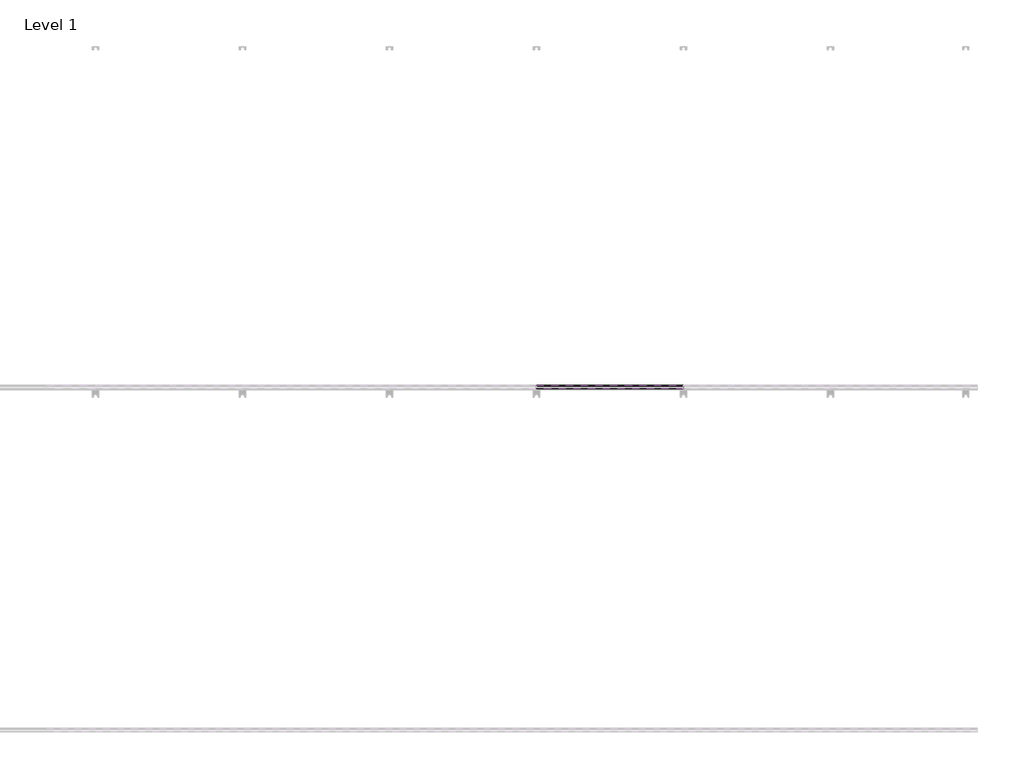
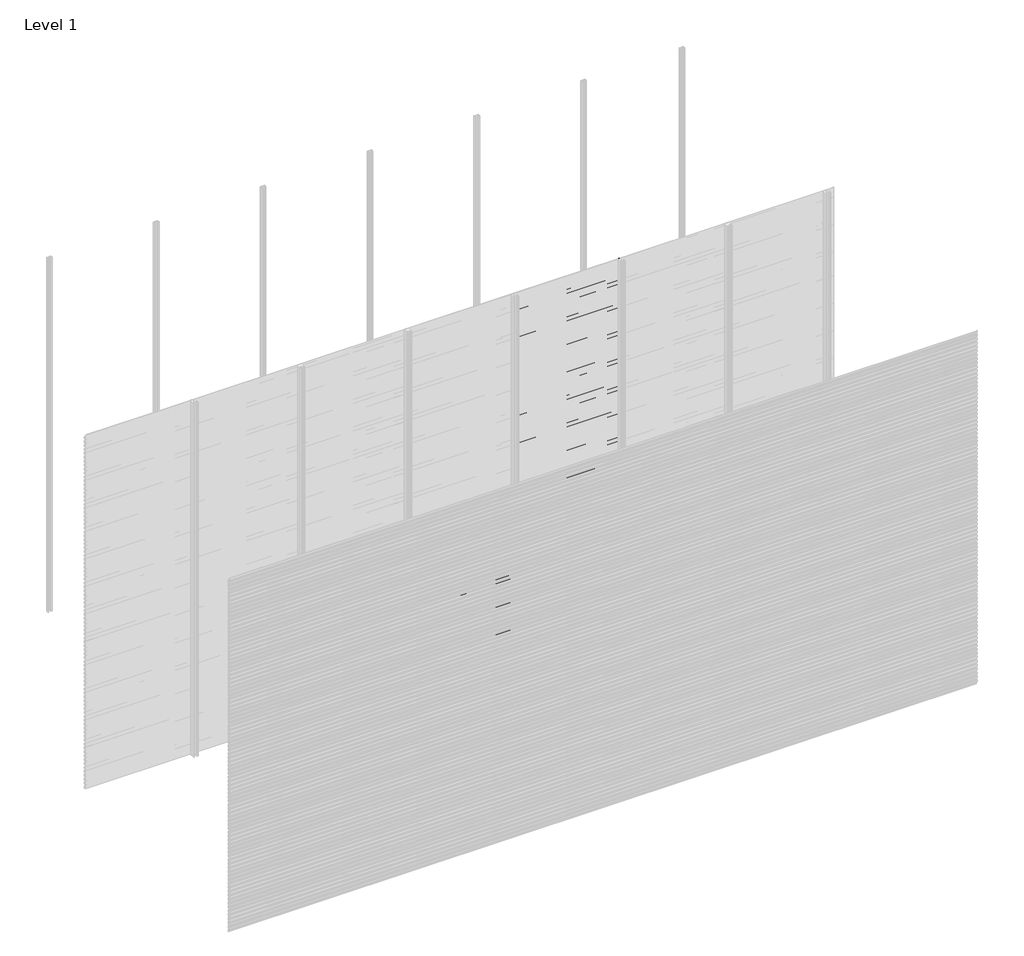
# One storey, part 75 of 96: 76 proxies.
"""IFC4 building model written with IfcOpenShell, lengths in millimetres."""

from ifc_helpers import new_model, si_unit, frame, origin, place, context, project, spatial, polyline, outline, extrude, element, save

model = new_model("IFC4")

# Units and contexts
model_context = context("Model", 3, world=origin())
ifc_project = project(units=[si_unit("LENGTHUNIT", "METRE", prefix="MILLI")], contexts=[model_context])

# Site, building, storey
site = spatial("IfcSite", under=ifc_project)
building = spatial("IfcBuilding", under=site)
storey = spatial("IfcBuildingStorey", under=building, Name="Level 1", Elevation=0.0)

# Proxies
placement = place(None, origin())
element("IfcBuildingElementProxy", 1, Name="Wall Sweeps", at=placement, inside=storey, context=model_context, shape_type="SweptSolid", body=[
    extrude(outline(polyline([(-11977.6, 640.7655033), (-11977.6, 626.4779188), (-11982.4114965, 623.7), (-11982.4114965, 624.9701706), (-11978.85, 627.0264016), (-11978.85, 640.0437382), (-11998.0, 651.1000799), (-11998.0, 666.0), (-11996.75, 666.0), (-11996.75, 651.8217609), (-11977.6, 640.7655033)])), frame((2571.4285714, 0.0, 0.0), z_axis=(1.0, 0.0, 0.0), x_axis=(0.0, 1.0, 0.0)), (0.0, 0.0, 1.0), 857.1428571),
])
element("IfcBuildingElementProxy", 2, Name="Wall Sweeps", at=placement, inside=storey, context=model_context, shape_type="SweptSolid", body=[
    extrude(outline(polyline([(-11977.6, 607.4655033), (-11977.6, 593.1779188), (-11982.4114965, 590.4), (-11982.4114965, 591.6701706), (-11978.85, 593.7264016), (-11978.85, 606.7437382), (-11998.0, 617.8000799), (-11998.0, 632.7), (-11996.75, 632.7), (-11996.75, 618.5217609), (-11977.6, 607.4655033)])), frame((2571.4285714, 0.0, 0.0), z_axis=(1.0, 0.0, 0.0), x_axis=(0.0, 1.0, 0.0)), (0.0, 0.0, 1.0), 857.1428571),
])
element("IfcBuildingElementProxy", 3, Name="Wall Sweeps", at=placement, inside=storey, context=model_context, shape_type="SweptSolid", body=[
    extrude(outline(polyline([(-11977.6, 574.1655033), (-11977.6, 559.8779188), (-11982.4114965, 557.1), (-11982.4114965, 558.3701706), (-11978.85, 560.4264016), (-11978.85, 573.4437382), (-11998.0, 584.5000799), (-11998.0, 599.4), (-11996.75, 599.4), (-11996.75, 585.2217609), (-11977.6, 574.1655033)])), frame((2571.4285714, 0.0, 0.0), z_axis=(1.0, 0.0, 0.0), x_axis=(0.0, 1.0, 0.0)), (0.0, 0.0, 1.0), 857.1428571),
])
element("IfcBuildingElementProxy", 4, Name="Wall Sweeps", at=placement, inside=storey, context=model_context, shape_type="SweptSolid", body=[
    extrude(outline(polyline([(-11977.6, 540.8655033), (-11977.6, 526.5779188), (-11982.4114965, 523.8), (-11982.4114965, 525.0701706), (-11978.85, 527.1264016), (-11978.85, 540.1437382), (-11998.0, 551.2000799), (-11998.0, 566.1), (-11996.75, 566.1), (-11996.75, 551.9217609), (-11977.6, 540.8655033)])), frame((2571.4285714, 0.0, 0.0), z_axis=(1.0, 0.0, 0.0), x_axis=(0.0, 1.0, 0.0)), (0.0, 0.0, 1.0), 857.1428571),
])
element("IfcBuildingElementProxy", 5, Name="Wall Sweeps", at=placement, inside=storey, context=model_context, shape_type="SweptSolid", body=[
    extrude(outline(polyline([(-11977.6, 507.5655033), (-11977.6, 493.2779188), (-11982.4114965, 490.5), (-11982.4114965, 491.7701706), (-11978.85, 493.8264016), (-11978.85, 506.8437382), (-11998.0, 517.9000799), (-11998.0, 532.8), (-11996.75, 532.8), (-11996.75, 518.6217609), (-11977.6, 507.5655033)])), frame((2571.4285714, 0.0, 0.0), z_axis=(1.0, 0.0, 0.0), x_axis=(0.0, 1.0, 0.0)), (0.0, 0.0, 1.0), 857.1428571),
])
element("IfcBuildingElementProxy", 6, Name="Wall Sweeps", at=placement, inside=storey, context=model_context, shape_type="SweptSolid", body=[
    extrude(outline(polyline([(-11977.6, 474.2655033), (-11977.6, 459.9779188), (-11982.4114965, 457.2), (-11982.4114965, 458.4701706), (-11978.85, 460.5264016), (-11978.85, 473.5437382), (-11998.0, 484.6000799), (-11998.0, 499.5), (-11996.75, 499.5), (-11996.75, 485.3217609), (-11977.6, 474.2655033)])), frame((2571.4285714, 0.0, 0.0), z_axis=(1.0, 0.0, 0.0), x_axis=(0.0, 1.0, 0.0)), (0.0, 0.0, 1.0), 857.1428571),
])
element("IfcBuildingElementProxy", 7, Name="Wall Sweeps", at=placement, inside=storey, context=model_context, shape_type="SweptSolid", body=[
    extrude(outline(polyline([(-11977.6, 440.9655033), (-11977.6, 426.6779188), (-11982.4114965, 423.9), (-11982.4114965, 425.1701706), (-11978.85, 427.2264016), (-11978.85, 440.2437382), (-11998.0, 451.3000799), (-11998.0, 466.2), (-11996.75, 466.2), (-11996.75, 452.0217609), (-11977.6, 440.9655033)])), frame((2571.4285714, 0.0, 0.0), z_axis=(1.0, 0.0, 0.0), x_axis=(0.0, 1.0, 0.0)), (0.0, 0.0, 1.0), 857.1428571),
])
element("IfcBuildingElementProxy", 8, Name="Wall Sweeps", at=placement, inside=storey, context=model_context, shape_type="SweptSolid", body=[
    extrude(outline(polyline([(-11977.6, 407.6655033), (-11977.6, 393.3779188), (-11982.4114965, 390.6), (-11982.4114965, 391.8701706), (-11978.85, 393.9264016), (-11978.85, 406.9437382), (-11998.0, 418.0000799), (-11998.0, 432.9), (-11996.75, 432.9), (-11996.75, 418.7217609), (-11977.6, 407.6655033)])), frame((2571.4285714, 0.0, 0.0), z_axis=(1.0, 0.0, 0.0), x_axis=(0.0, 1.0, 0.0)), (0.0, 0.0, 1.0), 857.1428571),
])
element("IfcBuildingElementProxy", 9, Name="Wall Sweeps", at=placement, inside=storey, context=model_context, shape_type="SweptSolid", body=[
    extrude(outline(polyline([(-11977.6, 374.3655033), (-11977.6, 360.0779188), (-11982.4114965, 357.3), (-11982.4114965, 358.5701706), (-11978.85, 360.6264016), (-11978.85, 373.6437382), (-11998.0, 384.7000799), (-11998.0, 399.6), (-11996.75, 399.6), (-11996.75, 385.4217609), (-11977.6, 374.3655033)])), frame((2571.4285714, 0.0, 0.0), z_axis=(1.0, 0.0, 0.0), x_axis=(0.0, 1.0, 0.0)), (0.0, 0.0, 1.0), 857.1428571),
])
element("IfcBuildingElementProxy", 10, Name="Wall Sweeps", at=placement, inside=storey, context=model_context, shape_type="SweptSolid", body=[
    extrude(outline(polyline([(-11977.6, 341.0655033), (-11977.6, 326.7779188), (-11982.4114965, 324.0), (-11982.4114965, 325.2701706), (-11978.85, 327.3264016), (-11978.85, 340.3437382), (-11998.0, 351.4000799), (-11998.0, 366.3), (-11996.75, 366.3), (-11996.75, 352.1217609), (-11977.6, 341.0655033)])), frame((2571.4285714, 0.0, 0.0), z_axis=(1.0, 0.0, 0.0), x_axis=(0.0, 1.0, 0.0)), (0.0, 0.0, 1.0), 857.1428571),
])
element("IfcBuildingElementProxy", 11, Name="Wall Sweeps", at=placement, inside=storey, context=model_context, shape_type="SweptSolid", body=[
    extrude(outline(polyline([(-11977.6, 307.7655033), (-11977.6, 293.4779188), (-11982.4114965, 290.7), (-11982.4114965, 291.9701706), (-11978.85, 294.0264016), (-11978.85, 307.0437382), (-11998.0, 318.1000799), (-11998.0, 333.0), (-11996.75, 333.0), (-11996.75, 318.8217609), (-11977.6, 307.7655033)])), frame((2571.4285714, 0.0, 0.0), z_axis=(1.0, 0.0, 0.0), x_axis=(0.0, 1.0, 0.0)), (0.0, 0.0, 1.0), 857.1428571),
])
element("IfcBuildingElementProxy", 12, Name="Wall Sweeps", at=placement, inside=storey, context=model_context, shape_type="SweptSolid", body=[
    extrude(outline(polyline([(-11977.6, 274.4655033), (-11977.6, 260.1779188), (-11982.4114965, 257.4), (-11982.4114965, 258.6701706), (-11978.85, 260.7264016), (-11978.85, 273.7437382), (-11998.0, 284.8000799), (-11998.0, 299.7), (-11996.75, 299.7), (-11996.75, 285.5217609), (-11977.6, 274.4655033)])), frame((2571.4285714, 0.0, 0.0), z_axis=(1.0, 0.0, 0.0), x_axis=(0.0, 1.0, 0.0)), (0.0, 0.0, 1.0), 857.1428571),
])
element("IfcBuildingElementProxy", 13, Name="Wall Sweeps", at=placement, inside=storey, context=model_context, shape_type="SweptSolid", body=[
    extrude(outline(polyline([(-11977.6, 241.1655033), (-11977.6, 226.8779188), (-11982.4114965, 224.1), (-11982.4114965, 225.3701706), (-11978.85, 227.4264016), (-11978.85, 240.4437382), (-11998.0, 251.5000799), (-11998.0, 266.4), (-11996.75, 266.4), (-11996.75, 252.2217609), (-11977.6, 241.1655033)])), frame((2571.4285714, 0.0, 0.0), z_axis=(1.0, 0.0, 0.0), x_axis=(0.0, 1.0, 0.0)), (0.0, 0.0, 1.0), 857.1428571),
])
element("IfcBuildingElementProxy", 14, Name="Wall Sweeps", at=placement, inside=storey, context=model_context, shape_type="SweptSolid", body=[
    extrude(outline(polyline([(-11977.6, 207.8655033), (-11977.6, 193.5779188), (-11982.4114965, 190.8), (-11982.4114965, 192.0701706), (-11978.85, 194.1264016), (-11978.85, 207.1437382), (-11998.0, 218.2000799), (-11998.0, 233.1), (-11996.75, 233.1), (-11996.75, 218.9217609), (-11977.6, 207.8655033)])), frame((2571.4285714, 0.0, 0.0), z_axis=(1.0, 0.0, 0.0), x_axis=(0.0, 1.0, 0.0)), (0.0, 0.0, 1.0), 857.1428571),
])
element("IfcBuildingElementProxy", 15, Name="Wall Sweeps", at=placement, inside=storey, context=model_context, shape_type="SweptSolid", body=[
    extrude(outline(polyline([(-11977.6, 174.5655033), (-11977.6, 160.2779188), (-11982.4114965, 157.5), (-11982.4114965, 158.7701706), (-11978.85, 160.8264016), (-11978.85, 173.8437382), (-11998.0, 184.9000799), (-11998.0, 199.8), (-11996.75, 199.8), (-11996.75, 185.6217609), (-11977.6, 174.5655033)])), frame((2571.4285714, 0.0, 0.0), z_axis=(1.0, 0.0, 0.0), x_axis=(0.0, 1.0, 0.0)), (0.0, 0.0, 1.0), 857.1428571),
])
element("IfcBuildingElementProxy", 16, Name="Wall Sweeps", at=placement, inside=storey, context=model_context, shape_type="SweptSolid", body=[
    extrude(outline(polyline([(-11977.6, 141.2655033), (-11977.6, 126.9779188), (-11982.4114965, 124.2), (-11982.4114965, 125.4701706), (-11978.85, 127.5264016), (-11978.85, 140.5437382), (-11998.0, 151.6000799), (-11998.0, 166.5), (-11996.75, 166.5), (-11996.75, 152.3217609), (-11977.6, 141.2655033)])), frame((2571.4285714, 0.0, 0.0), z_axis=(1.0, 0.0, 0.0), x_axis=(0.0, 1.0, 0.0)), (0.0, 0.0, 1.0), 857.1428571),
])
element("IfcBuildingElementProxy", 17, Name="Wall Sweeps", at=placement, inside=storey, context=model_context, shape_type="SweptSolid", body=[
    extrude(outline(polyline([(-11977.6, 107.9655033), (-11977.6, 93.6779188), (-11982.4114965, 90.9), (-11982.4114965, 92.1701706), (-11978.85, 94.2264016), (-11978.85, 107.2437382), (-11998.0, 118.3000799), (-11998.0, 133.2), (-11996.75, 133.2), (-11996.75, 119.0217609), (-11977.6, 107.9655033)])), frame((2571.4285714, 0.0, 0.0), z_axis=(1.0, 0.0, 0.0), x_axis=(0.0, 1.0, 0.0)), (0.0, 0.0, 1.0), 857.1428571),
])
element("IfcBuildingElementProxy", 18, Name="Wall Sweeps", at=placement, inside=storey, context=model_context, shape_type="SweptSolid", body=[
    extrude(outline(polyline([(-11977.6, 74.6655033), (-11977.6, 60.3779188), (-11982.4114965, 57.6), (-11982.4114965, 58.8701706), (-11978.85, 60.9264016), (-11978.85, 73.9437382), (-11998.0, 85.0000799), (-11998.0, 99.9), (-11996.75, 99.9), (-11996.75, 85.7217609), (-11977.6, 74.6655033)])), frame((2571.4285714, 0.0, 0.0), z_axis=(1.0, 0.0, 0.0), x_axis=(0.0, 1.0, 0.0)), (0.0, 0.0, 1.0), 857.1428571),
])
element("IfcBuildingElementProxy", 19, Name="Wall Sweeps", at=placement, inside=storey, context=model_context, shape_type="SweptSolid", body=[
    extrude(outline(polyline([(-11977.6, 41.3655033), (-11977.6, 27.0779188), (-11982.4114965, 24.3), (-11982.4114965, 25.5701706), (-11978.85, 27.6264016), (-11978.85, 40.6437382), (-11998.0, 51.7000799), (-11998.0, 66.6), (-11996.75, 66.6), (-11996.75, 52.4217609), (-11977.6, 41.3655033)])), frame((2571.4285714, 0.0, 0.0), z_axis=(1.0, 0.0, 0.0), x_axis=(0.0, 1.0, 0.0)), (0.0, 0.0, 1.0), 857.1428571),
])
element("IfcBuildingElementProxy", 20, Name="Wall Sweeps", at=placement, inside=storey, context=model_context, shape_type="SweptSolid", body=[
    extrude(outline(polyline([(-11977.6, 8.0655033), (-11977.6, -6.2220812), (-11982.4114965, -9.0), (-11982.4114965, -7.7298294), (-11978.85, -5.6735984), (-11978.85, 7.3437382), (-11998.0, 18.4000799), (-11998.0, 33.3), (-11996.75, 33.3), (-11996.75, 19.1217609), (-11977.6, 8.0655033)])), frame((2571.4285714, 0.0, 0.0), z_axis=(1.0, 0.0, 0.0), x_axis=(0.0, 1.0, 0.0)), (0.0, 0.0, 1.0), 857.1428571),
])
element("IfcBuildingElementProxy", 21, Name="Wall Sweeps", at=placement, inside=storey, context=model_context, shape_type="SweptSolid", body=[
    extrude(outline(polyline([(-11977.6, 2971.7655033), (-11977.6, 2957.4779188), (-11982.4114965, 2954.7), (-11982.4114965, 2955.9701706), (-11978.85, 2958.0264016), (-11978.85, 2971.0437382), (-11998.0, 2982.1000799), (-11998.0, 2997.0), (-11996.75, 2997.0), (-11996.75, 2982.8217609), (-11977.6, 2971.7655033)])), frame((3428.5714286, 0.0, 0.0), z_axis=(1.0, 0.0, 0.0), x_axis=(0.0, 1.0, 0.0)), (0.0, 0.0, 1.0), 857.1428571),
])
element("IfcBuildingElementProxy", 22, Name="Wall Sweeps", at=placement, inside=storey, context=model_context, shape_type="SweptSolid", body=[
    extrude(outline(polyline([(-11977.6, 2938.4655033), (-11977.6, 2924.1779188), (-11982.4114965, 2921.4), (-11982.4114965, 2922.6701706), (-11978.85, 2924.7264016), (-11978.85, 2937.7437382), (-11998.0, 2948.8000799), (-11998.0, 2963.7), (-11996.75, 2963.7), (-11996.75, 2949.5217609), (-11977.6, 2938.4655033)])), frame((3428.5714286, 0.0, 0.0), z_axis=(1.0, 0.0, 0.0), x_axis=(0.0, 1.0, 0.0)), (0.0, 0.0, 1.0), 857.1428571),
])
element("IfcBuildingElementProxy", 23, Name="Wall Sweeps", at=placement, inside=storey, context=model_context, shape_type="SweptSolid", body=[
    extrude(outline(polyline([(-11977.6, 2905.1655033), (-11977.6, 2890.8779188), (-11982.4114965, 2888.1), (-11982.4114965, 2889.3701706), (-11978.85, 2891.4264016), (-11978.85, 2904.4437382), (-11998.0, 2915.5000799), (-11998.0, 2930.4), (-11996.75, 2930.4), (-11996.75, 2916.2217609), (-11977.6, 2905.1655033)])), frame((3428.5714286, 0.0, 0.0), z_axis=(1.0, 0.0, 0.0), x_axis=(0.0, 1.0, 0.0)), (0.0, 0.0, 1.0), 857.1428571),
])
element("IfcBuildingElementProxy", 24, Name="Wall Sweeps", at=placement, inside=storey, context=model_context, shape_type="SweptSolid", body=[
    extrude(outline(polyline([(-11977.6, 2871.8655033), (-11977.6, 2857.5779188), (-11982.4114965, 2854.8), (-11982.4114965, 2856.0701706), (-11978.85, 2858.1264016), (-11978.85, 2871.1437382), (-11998.0, 2882.2000799), (-11998.0, 2897.1), (-11996.75, 2897.1), (-11996.75, 2882.9217609), (-11977.6, 2871.8655033)])), frame((3428.5714286, 0.0, 0.0), z_axis=(1.0, 0.0, 0.0), x_axis=(0.0, 1.0, 0.0)), (0.0, 0.0, 1.0), 857.1428571),
])
element("IfcBuildingElementProxy", 25, Name="Wall Sweeps", at=placement, inside=storey, context=model_context, shape_type="SweptSolid", body=[
    extrude(outline(polyline([(-11977.6, 2838.5655033), (-11977.6, 2824.2779188), (-11982.4114965, 2821.5), (-11982.4114965, 2822.7701706), (-11978.85, 2824.8264016), (-11978.85, 2837.8437382), (-11998.0, 2848.9000799), (-11998.0, 2863.8), (-11996.75, 2863.8), (-11996.75, 2849.6217609), (-11977.6, 2838.5655033)])), frame((3428.5714286, 0.0, 0.0), z_axis=(1.0, 0.0, 0.0), x_axis=(0.0, 1.0, 0.0)), (0.0, 0.0, 1.0), 857.1428571),
])
element("IfcBuildingElementProxy", 26, Name="Wall Sweeps", at=placement, inside=storey, context=model_context, shape_type="SweptSolid", body=[
    extrude(outline(polyline([(-11977.6, 2805.2655033), (-11977.6, 2790.9779188), (-11982.4114965, 2788.2), (-11982.4114965, 2789.4701706), (-11978.85, 2791.5264016), (-11978.85, 2804.5437382), (-11998.0, 2815.6000799), (-11998.0, 2830.5), (-11996.75, 2830.5), (-11996.75, 2816.3217609), (-11977.6, 2805.2655033)])), frame((3428.5714286, 0.0, 0.0), z_axis=(1.0, 0.0, 0.0), x_axis=(0.0, 1.0, 0.0)), (0.0, 0.0, 1.0), 857.1428571),
])
element("IfcBuildingElementProxy", 27, Name="Wall Sweeps", at=placement, inside=storey, context=model_context, shape_type="SweptSolid", body=[
    extrude(outline(polyline([(-11977.6, 2771.9655033), (-11977.6, 2757.6779188), (-11982.4114965, 2754.9), (-11982.4114965, 2756.1701706), (-11978.85, 2758.2264016), (-11978.85, 2771.2437382), (-11998.0, 2782.3000799), (-11998.0, 2797.2), (-11996.75, 2797.2), (-11996.75, 2783.0217609), (-11977.6, 2771.9655033)])), frame((3428.5714286, 0.0, 0.0), z_axis=(1.0, 0.0, 0.0), x_axis=(0.0, 1.0, 0.0)), (0.0, 0.0, 1.0), 857.1428571),
])
element("IfcBuildingElementProxy", 28, Name="Wall Sweeps", at=placement, inside=storey, context=model_context, shape_type="SweptSolid", body=[
    extrude(outline(polyline([(-11977.6, 2738.6655033), (-11977.6, 2724.3779188), (-11982.4114965, 2721.6), (-11982.4114965, 2722.8701706), (-11978.85, 2724.9264016), (-11978.85, 2737.9437382), (-11998.0, 2749.0000799), (-11998.0, 2763.9), (-11996.75, 2763.9), (-11996.75, 2749.7217609), (-11977.6, 2738.6655033)])), frame((3428.5714286, 0.0, 0.0), z_axis=(1.0, 0.0, 0.0), x_axis=(0.0, 1.0, 0.0)), (0.0, 0.0, 1.0), 857.1428571),
])
element("IfcBuildingElementProxy", 29, Name="Wall Sweeps", at=placement, inside=storey, context=model_context, shape_type="SweptSolid", body=[
    extrude(outline(polyline([(-11977.6, 2705.3655033), (-11977.6, 2691.0779188), (-11982.4114965, 2688.3), (-11982.4114965, 2689.5701706), (-11978.85, 2691.6264016), (-11978.85, 2704.6437382), (-11998.0, 2715.7000799), (-11998.0, 2730.6), (-11996.75, 2730.6), (-11996.75, 2716.4217609), (-11977.6, 2705.3655033)])), frame((3428.5714286, 0.0, 0.0), z_axis=(1.0, 0.0, 0.0), x_axis=(0.0, 1.0, 0.0)), (0.0, 0.0, 1.0), 857.1428571),
])
element("IfcBuildingElementProxy", 30, Name="Wall Sweeps", at=placement, inside=storey, context=model_context, shape_type="SweptSolid", body=[
    extrude(outline(polyline([(-11977.6, 2672.0655033), (-11977.6, 2657.7779188), (-11982.4114965, 2655.0), (-11982.4114965, 2656.2701706), (-11978.85, 2658.3264016), (-11978.85, 2671.3437382), (-11998.0, 2682.4000799), (-11998.0, 2697.3), (-11996.75, 2697.3), (-11996.75, 2683.1217609), (-11977.6, 2672.0655033)])), frame((3428.5714286, 0.0, 0.0), z_axis=(1.0, 0.0, 0.0), x_axis=(0.0, 1.0, 0.0)), (0.0, 0.0, 1.0), 857.1428571),
])
element("IfcBuildingElementProxy", 31, Name="Wall Sweeps", at=placement, inside=storey, context=model_context, shape_type="SweptSolid", body=[
    extrude(outline(polyline([(-11977.6, 2638.7655033), (-11977.6, 2624.4779188), (-11982.4114965, 2621.7), (-11982.4114965, 2622.9701706), (-11978.85, 2625.0264016), (-11978.85, 2638.0437382), (-11998.0, 2649.1000799), (-11998.0, 2664.0), (-11996.75, 2664.0), (-11996.75, 2649.8217609), (-11977.6, 2638.7655033)])), frame((3428.5714286, 0.0, 0.0), z_axis=(1.0, 0.0, 0.0), x_axis=(0.0, 1.0, 0.0)), (0.0, 0.0, 1.0), 857.1428571),
])
element("IfcBuildingElementProxy", 32, Name="Wall Sweeps", at=placement, inside=storey, context=model_context, shape_type="SweptSolid", body=[
    extrude(outline(polyline([(-11977.6, 2605.4655033), (-11977.6, 2591.1779188), (-11982.4114965, 2588.4), (-11982.4114965, 2589.6701706), (-11978.85, 2591.7264016), (-11978.85, 2604.7437382), (-11998.0, 2615.8000799), (-11998.0, 2630.7), (-11996.75, 2630.7), (-11996.75, 2616.5217609), (-11977.6, 2605.4655033)])), frame((3428.5714286, 0.0, 0.0), z_axis=(1.0, 0.0, 0.0), x_axis=(0.0, 1.0, 0.0)), (0.0, 0.0, 1.0), 857.1428571),
])
element("IfcBuildingElementProxy", 33, Name="Wall Sweeps", at=placement, inside=storey, context=model_context, shape_type="SweptSolid", body=[
    extrude(outline(polyline([(-11977.6, 2572.1655033), (-11977.6, 2557.8779188), (-11982.4114965, 2555.1), (-11982.4114965, 2556.3701706), (-11978.85, 2558.4264016), (-11978.85, 2571.4437382), (-11998.0, 2582.5000799), (-11998.0, 2597.4), (-11996.75, 2597.4), (-11996.75, 2583.2217609), (-11977.6, 2572.1655033)])), frame((3428.5714286, 0.0, 0.0), z_axis=(1.0, 0.0, 0.0), x_axis=(0.0, 1.0, 0.0)), (0.0, 0.0, 1.0), 857.1428571),
])
element("IfcBuildingElementProxy", 34, Name="Wall Sweeps", at=placement, inside=storey, context=model_context, shape_type="SweptSolid", body=[
    extrude(outline(polyline([(-11977.6, 2538.8655033), (-11977.6, 2524.5779188), (-11982.4114965, 2521.8), (-11982.4114965, 2523.0701706), (-11978.85, 2525.1264016), (-11978.85, 2538.1437382), (-11998.0, 2549.2000799), (-11998.0, 2564.1), (-11996.75, 2564.1), (-11996.75, 2549.9217609), (-11977.6, 2538.8655033)])), frame((3428.5714286, 0.0, 0.0), z_axis=(1.0, 0.0, 0.0), x_axis=(0.0, 1.0, 0.0)), (0.0, 0.0, 1.0), 857.1428571),
])
element("IfcBuildingElementProxy", 35, Name="Wall Sweeps", at=placement, inside=storey, context=model_context, shape_type="SweptSolid", body=[
    extrude(outline(polyline([(-11977.6, 2505.5655033), (-11977.6, 2491.2779188), (-11982.4114965, 2488.5), (-11982.4114965, 2489.7701706), (-11978.85, 2491.8264016), (-11978.85, 2504.8437382), (-11998.0, 2515.9000799), (-11998.0, 2530.8), (-11996.75, 2530.8), (-11996.75, 2516.6217609), (-11977.6, 2505.5655033)])), frame((3428.5714286, 0.0, 0.0), z_axis=(1.0, 0.0, 0.0), x_axis=(0.0, 1.0, 0.0)), (0.0, 0.0, 1.0), 857.1428571),
])
element("IfcBuildingElementProxy", 36, Name="Wall Sweeps", at=placement, inside=storey, context=model_context, shape_type="SweptSolid", body=[
    extrude(outline(polyline([(-11977.6, 2472.2655033), (-11977.6, 2457.9779188), (-11982.4114965, 2455.2), (-11982.4114965, 2456.4701706), (-11978.85, 2458.5264016), (-11978.85, 2471.5437382), (-11998.0, 2482.6000799), (-11998.0, 2497.5), (-11996.75, 2497.5), (-11996.75, 2483.3217609), (-11977.6, 2472.2655033)])), frame((3428.5714286, 0.0, 0.0), z_axis=(1.0, 0.0, 0.0), x_axis=(0.0, 1.0, 0.0)), (0.0, 0.0, 1.0), 857.1428571),
])
element("IfcBuildingElementProxy", 37, Name="Wall Sweeps", at=placement, inside=storey, context=model_context, shape_type="SweptSolid", body=[
    extrude(outline(polyline([(-11977.6, 2438.9655033), (-11977.6, 2424.6779188), (-11982.4114965, 2421.9), (-11982.4114965, 2423.1701706), (-11978.85, 2425.2264016), (-11978.85, 2438.2437382), (-11998.0, 2449.3000799), (-11998.0, 2464.2), (-11996.75, 2464.2), (-11996.75, 2450.0217609), (-11977.6, 2438.9655033)])), frame((3428.5714286, 0.0, 0.0), z_axis=(1.0, 0.0, 0.0), x_axis=(0.0, 1.0, 0.0)), (0.0, 0.0, 1.0), 857.1428571),
])
element("IfcBuildingElementProxy", 38, Name="Wall Sweeps", at=placement, inside=storey, context=model_context, shape_type="SweptSolid", body=[
    extrude(outline(polyline([(-11977.6, 2405.6655033), (-11977.6, 2391.3779188), (-11982.4114965, 2388.6), (-11982.4114965, 2389.8701706), (-11978.85, 2391.9264016), (-11978.85, 2404.9437382), (-11998.0, 2416.0000799), (-11998.0, 2430.9), (-11996.75, 2430.9), (-11996.75, 2416.7217609), (-11977.6, 2405.6655033)])), frame((3428.5714286, 0.0, 0.0), z_axis=(1.0, 0.0, 0.0), x_axis=(0.0, 1.0, 0.0)), (0.0, 0.0, 1.0), 857.1428571),
])
element("IfcBuildingElementProxy", 39, Name="Wall Sweeps", at=placement, inside=storey, context=model_context, shape_type="SweptSolid", body=[
    extrude(outline(polyline([(-11977.6, 2372.3655033), (-11977.6, 2358.0779188), (-11982.4114965, 2355.3), (-11982.4114965, 2356.5701706), (-11978.85, 2358.6264016), (-11978.85, 2371.6437382), (-11998.0, 2382.7000799), (-11998.0, 2397.6), (-11996.75, 2397.6), (-11996.75, 2383.4217609), (-11977.6, 2372.3655033)])), frame((3428.5714286, 0.0, 0.0), z_axis=(1.0, 0.0, 0.0), x_axis=(0.0, 1.0, 0.0)), (0.0, 0.0, 1.0), 857.1428571),
])
element("IfcBuildingElementProxy", 40, Name="Wall Sweeps", at=placement, inside=storey, context=model_context, shape_type="SweptSolid", body=[
    extrude(outline(polyline([(-11977.6, 2339.0655033), (-11977.6, 2324.7779188), (-11982.4114965, 2322.0), (-11982.4114965, 2323.2701706), (-11978.85, 2325.3264016), (-11978.85, 2338.3437382), (-11998.0, 2349.4000799), (-11998.0, 2364.3), (-11996.75, 2364.3), (-11996.75, 2350.1217609), (-11977.6, 2339.0655033)])), frame((3428.5714286, 0.0, 0.0), z_axis=(1.0, 0.0, 0.0), x_axis=(0.0, 1.0, 0.0)), (0.0, 0.0, 1.0), 857.1428571),
])
element("IfcBuildingElementProxy", 41, Name="Wall Sweeps", at=placement, inside=storey, context=model_context, shape_type="SweptSolid", body=[
    extrude(outline(polyline([(-11977.6, 2305.7655033), (-11977.6, 2291.4779188), (-11982.4114965, 2288.7), (-11982.4114965, 2289.9701706), (-11978.85, 2292.0264016), (-11978.85, 2305.0437382), (-11998.0, 2316.1000799), (-11998.0, 2331.0), (-11996.75, 2331.0), (-11996.75, 2316.8217609), (-11977.6, 2305.7655033)])), frame((3428.5714286, 0.0, 0.0), z_axis=(1.0, 0.0, 0.0), x_axis=(0.0, 1.0, 0.0)), (0.0, 0.0, 1.0), 857.1428571),
])
element("IfcBuildingElementProxy", 42, Name="Wall Sweeps", at=placement, inside=storey, context=model_context, shape_type="SweptSolid", body=[
    extrude(outline(polyline([(-11977.6, 2272.4655033), (-11977.6, 2258.1779188), (-11982.4114965, 2255.4), (-11982.4114965, 2256.6701706), (-11978.85, 2258.7264016), (-11978.85, 2271.7437382), (-11998.0, 2282.8000799), (-11998.0, 2297.7), (-11996.75, 2297.7), (-11996.75, 2283.5217609), (-11977.6, 2272.4655033)])), frame((3428.5714286, 0.0, 0.0), z_axis=(1.0, 0.0, 0.0), x_axis=(0.0, 1.0, 0.0)), (0.0, 0.0, 1.0), 857.1428571),
])
element("IfcBuildingElementProxy", 43, Name="Wall Sweeps", at=placement, inside=storey, context=model_context, shape_type="SweptSolid", body=[
    extrude(outline(polyline([(-11977.6, 2239.1655033), (-11977.6, 2224.8779188), (-11982.4114965, 2222.1), (-11982.4114965, 2223.3701706), (-11978.85, 2225.4264016), (-11978.85, 2238.4437382), (-11998.0, 2249.5000799), (-11998.0, 2264.4), (-11996.75, 2264.4), (-11996.75, 2250.2217609), (-11977.6, 2239.1655033)])), frame((3428.5714286, 0.0, 0.0), z_axis=(1.0, 0.0, 0.0), x_axis=(0.0, 1.0, 0.0)), (0.0, 0.0, 1.0), 857.1428571),
])
element("IfcBuildingElementProxy", 44, Name="Wall Sweeps", at=placement, inside=storey, context=model_context, shape_type="SweptSolid", body=[
    extrude(outline(polyline([(-11977.6, 2205.8655033), (-11977.6, 2191.5779188), (-11982.4114965, 2188.8), (-11982.4114965, 2190.0701706), (-11978.85, 2192.1264016), (-11978.85, 2205.1437382), (-11998.0, 2216.2000799), (-11998.0, 2231.1), (-11996.75, 2231.1), (-11996.75, 2216.9217609), (-11977.6, 2205.8655033)])), frame((3428.5714286, 0.0, 0.0), z_axis=(1.0, 0.0, 0.0), x_axis=(0.0, 1.0, 0.0)), (0.0, 0.0, 1.0), 857.1428571),
])
element("IfcBuildingElementProxy", 45, Name="Wall Sweeps", at=placement, inside=storey, context=model_context, shape_type="SweptSolid", body=[
    extrude(outline(polyline([(-11977.6, 2172.5655033), (-11977.6, 2158.2779188), (-11982.4114965, 2155.5), (-11982.4114965, 2156.7701706), (-11978.85, 2158.8264016), (-11978.85, 2171.8437382), (-11998.0, 2182.9000799), (-11998.0, 2197.8), (-11996.75, 2197.8), (-11996.75, 2183.6217609), (-11977.6, 2172.5655033)])), frame((3428.5714286, 0.0, 0.0), z_axis=(1.0, 0.0, 0.0), x_axis=(0.0, 1.0, 0.0)), (0.0, 0.0, 1.0), 857.1428571),
])
element("IfcBuildingElementProxy", 46, Name="Wall Sweeps", at=placement, inside=storey, context=model_context, shape_type="SweptSolid", body=[
    extrude(outline(polyline([(-11977.6, 2139.2655033), (-11977.6, 2124.9779188), (-11982.4114965, 2122.2), (-11982.4114965, 2123.4701706), (-11978.85, 2125.5264016), (-11978.85, 2138.5437382), (-11998.0, 2149.6000799), (-11998.0, 2164.5), (-11996.75, 2164.5), (-11996.75, 2150.3217609), (-11977.6, 2139.2655033)])), frame((3428.5714286, 0.0, 0.0), z_axis=(1.0, 0.0, 0.0), x_axis=(0.0, 1.0, 0.0)), (0.0, 0.0, 1.0), 857.1428571),
])
element("IfcBuildingElementProxy", 47, Name="Wall Sweeps", at=placement, inside=storey, context=model_context, shape_type="SweptSolid", body=[
    extrude(outline(polyline([(-11977.6, 2105.9655033), (-11977.6, 2091.6779188), (-11982.4114965, 2088.9), (-11982.4114965, 2090.1701706), (-11978.85, 2092.2264016), (-11978.85, 2105.2437382), (-11998.0, 2116.3000799), (-11998.0, 2131.2), (-11996.75, 2131.2), (-11996.75, 2117.0217609), (-11977.6, 2105.9655033)])), frame((3428.5714286, 0.0, 0.0), z_axis=(1.0, 0.0, 0.0), x_axis=(0.0, 1.0, 0.0)), (0.0, 0.0, 1.0), 857.1428571),
])
element("IfcBuildingElementProxy", 48, Name="Wall Sweeps", at=placement, inside=storey, context=model_context, shape_type="SweptSolid", body=[
    extrude(outline(polyline([(-11977.6, 2072.6655033), (-11977.6, 2058.3779188), (-11982.4114965, 2055.6), (-11982.4114965, 2056.8701706), (-11978.85, 2058.9264016), (-11978.85, 2071.9437382), (-11998.0, 2083.0000799), (-11998.0, 2097.9), (-11996.75, 2097.9), (-11996.75, 2083.7217609), (-11977.6, 2072.6655033)])), frame((3428.5714286, 0.0, 0.0), z_axis=(1.0, 0.0, 0.0), x_axis=(0.0, 1.0, 0.0)), (0.0, 0.0, 1.0), 857.1428571),
])
element("IfcBuildingElementProxy", 49, Name="Wall Sweeps", at=placement, inside=storey, context=model_context, shape_type="SweptSolid", body=[
    extrude(outline(polyline([(-11977.6, 2039.3655033), (-11977.6, 2025.0779188), (-11982.4114965, 2022.3), (-11982.4114965, 2023.5701706), (-11978.85, 2025.6264016), (-11978.85, 2038.6437382), (-11998.0, 2049.7000799), (-11998.0, 2064.6), (-11996.75, 2064.6), (-11996.75, 2050.4217609), (-11977.6, 2039.3655033)])), frame((3428.5714286, 0.0, 0.0), z_axis=(1.0, 0.0, 0.0), x_axis=(0.0, 1.0, 0.0)), (0.0, 0.0, 1.0), 857.1428571),
])
element("IfcBuildingElementProxy", 50, Name="Wall Sweeps", at=placement, inside=storey, context=model_context, shape_type="SweptSolid", body=[
    extrude(outline(polyline([(-11977.6, 2006.0655033), (-11977.6, 1991.7779188), (-11982.4114965, 1989.0), (-11982.4114965, 1990.2701706), (-11978.85, 1992.3264016), (-11978.85, 2005.3437382), (-11998.0, 2016.4000799), (-11998.0, 2031.3), (-11996.75, 2031.3), (-11996.75, 2017.1217609), (-11977.6, 2006.0655033)])), frame((3428.5714286, 0.0, 0.0), z_axis=(1.0, 0.0, 0.0), x_axis=(0.0, 1.0, 0.0)), (0.0, 0.0, 1.0), 857.1428571),
])
element("IfcBuildingElementProxy", 51, Name="Wall Sweeps", at=placement, inside=storey, context=model_context, shape_type="SweptSolid", body=[
    extrude(outline(polyline([(-11977.6, 1972.7655033), (-11977.6, 1958.4779188), (-11982.4114965, 1955.7), (-11982.4114965, 1956.9701706), (-11978.85, 1959.0264016), (-11978.85, 1972.0437382), (-11998.0, 1983.1000799), (-11998.0, 1998.0), (-11996.75, 1998.0), (-11996.75, 1983.8217609), (-11977.6, 1972.7655033)])), frame((3428.5714286, 0.0, 0.0), z_axis=(1.0, 0.0, 0.0), x_axis=(0.0, 1.0, 0.0)), (0.0, 0.0, 1.0), 857.1428571),
])
element("IfcBuildingElementProxy", 52, Name="Wall Sweeps", at=placement, inside=storey, context=model_context, shape_type="SweptSolid", body=[
    extrude(outline(polyline([(-11977.6, 1939.4655033), (-11977.6, 1925.1779188), (-11982.4114965, 1922.4), (-11982.4114965, 1923.6701706), (-11978.85, 1925.7264016), (-11978.85, 1938.7437382), (-11998.0, 1949.8000799), (-11998.0, 1964.7), (-11996.75, 1964.7), (-11996.75, 1950.5217609), (-11977.6, 1939.4655033)])), frame((3428.5714286, 0.0, 0.0), z_axis=(1.0, 0.0, 0.0), x_axis=(0.0, 1.0, 0.0)), (0.0, 0.0, 1.0), 857.1428571),
])
element("IfcBuildingElementProxy", 53, Name="Wall Sweeps", at=placement, inside=storey, context=model_context, shape_type="SweptSolid", body=[
    extrude(outline(polyline([(-11977.6, 1906.1655033), (-11977.6, 1891.8779188), (-11982.4114965, 1889.1), (-11982.4114965, 1890.3701706), (-11978.85, 1892.4264016), (-11978.85, 1905.4437382), (-11998.0, 1916.5000799), (-11998.0, 1931.4), (-11996.75, 1931.4), (-11996.75, 1917.2217609), (-11977.6, 1906.1655033)])), frame((3428.5714286, 0.0, 0.0), z_axis=(1.0, 0.0, 0.0), x_axis=(0.0, 1.0, 0.0)), (0.0, 0.0, 1.0), 857.1428571),
])
element("IfcBuildingElementProxy", 54, Name="Wall Sweeps", at=placement, inside=storey, context=model_context, shape_type="SweptSolid", body=[
    extrude(outline(polyline([(-11977.6, 1872.8655033), (-11977.6, 1858.5779188), (-11982.4114965, 1855.8), (-11982.4114965, 1857.0701706), (-11978.85, 1859.1264016), (-11978.85, 1872.1437382), (-11998.0, 1883.2000799), (-11998.0, 1898.1), (-11996.75, 1898.1), (-11996.75, 1883.9217609), (-11977.6, 1872.8655033)])), frame((3428.5714286, 0.0, 0.0), z_axis=(1.0, 0.0, 0.0), x_axis=(0.0, 1.0, 0.0)), (0.0, 0.0, 1.0), 857.1428571),
])
element("IfcBuildingElementProxy", 55, Name="Wall Sweeps", at=placement, inside=storey, context=model_context, shape_type="SweptSolid", body=[
    extrude(outline(polyline([(-11977.6, 1839.5655033), (-11977.6, 1825.2779188), (-11982.4114965, 1822.5), (-11982.4114965, 1823.7701706), (-11978.85, 1825.8264016), (-11978.85, 1838.8437382), (-11998.0, 1849.9000799), (-11998.0, 1864.8), (-11996.75, 1864.8), (-11996.75, 1850.6217609), (-11977.6, 1839.5655033)])), frame((3428.5714286, 0.0, 0.0), z_axis=(1.0, 0.0, 0.0), x_axis=(0.0, 1.0, 0.0)), (0.0, 0.0, 1.0), 857.1428571),
])
element("IfcBuildingElementProxy", 56, Name="Wall Sweeps", at=placement, inside=storey, context=model_context, shape_type="SweptSolid", body=[
    extrude(outline(polyline([(-11977.6, 1806.2655033), (-11977.6, 1791.9779188), (-11982.4114965, 1789.2), (-11982.4114965, 1790.4701706), (-11978.85, 1792.5264016), (-11978.85, 1805.5437382), (-11998.0, 1816.6000799), (-11998.0, 1831.5), (-11996.75, 1831.5), (-11996.75, 1817.3217609), (-11977.6, 1806.2655033)])), frame((3428.5714286, 0.0, 0.0), z_axis=(1.0, 0.0, 0.0), x_axis=(0.0, 1.0, 0.0)), (0.0, 0.0, 1.0), 857.1428571),
])
element("IfcBuildingElementProxy", 57, Name="Wall Sweeps", at=placement, inside=storey, context=model_context, shape_type="SweptSolid", body=[
    extrude(outline(polyline([(-11977.6, 1772.9655033), (-11977.6, 1758.6779188), (-11982.4114965, 1755.9), (-11982.4114965, 1757.1701706), (-11978.85, 1759.2264016), (-11978.85, 1772.2437382), (-11998.0, 1783.3000799), (-11998.0, 1798.2), (-11996.75, 1798.2), (-11996.75, 1784.0217609), (-11977.6, 1772.9655033)])), frame((3428.5714286, 0.0, 0.0), z_axis=(1.0, 0.0, 0.0), x_axis=(0.0, 1.0, 0.0)), (0.0, 0.0, 1.0), 857.1428571),
])
element("IfcBuildingElementProxy", 58, Name="Wall Sweeps", at=placement, inside=storey, context=model_context, shape_type="SweptSolid", body=[
    extrude(outline(polyline([(-11977.6, 1739.6655033), (-11977.6, 1725.3779188), (-11982.4114965, 1722.6), (-11982.4114965, 1723.8701706), (-11978.85, 1725.9264016), (-11978.85, 1738.9437382), (-11998.0, 1750.0000799), (-11998.0, 1764.9), (-11996.75, 1764.9), (-11996.75, 1750.7217609), (-11977.6, 1739.6655033)])), frame((3428.5714286, 0.0, 0.0), z_axis=(1.0, 0.0, 0.0), x_axis=(0.0, 1.0, 0.0)), (0.0, 0.0, 1.0), 857.1428571),
])
element("IfcBuildingElementProxy", 59, Name="Wall Sweeps", at=placement, inside=storey, context=model_context, shape_type="SweptSolid", body=[
    extrude(outline(polyline([(-11977.6, 1706.3655033), (-11977.6, 1692.0779188), (-11982.4114965, 1689.3), (-11982.4114965, 1690.5701706), (-11978.85, 1692.6264016), (-11978.85, 1705.6437382), (-11998.0, 1716.7000799), (-11998.0, 1731.6), (-11996.75, 1731.6), (-11996.75, 1717.4217609), (-11977.6, 1706.3655033)])), frame((3428.5714286, 0.0, 0.0), z_axis=(1.0, 0.0, 0.0), x_axis=(0.0, 1.0, 0.0)), (0.0, 0.0, 1.0), 857.1428571),
])
element("IfcBuildingElementProxy", 60, Name="Wall Sweeps", at=placement, inside=storey, context=model_context, shape_type="SweptSolid", body=[
    extrude(outline(polyline([(-11977.6, 1673.0655033), (-11977.6, 1658.7779188), (-11982.4114965, 1656.0), (-11982.4114965, 1657.2701706), (-11978.85, 1659.3264016), (-11978.85, 1672.3437382), (-11998.0, 1683.4000799), (-11998.0, 1698.3), (-11996.75, 1698.3), (-11996.75, 1684.1217609), (-11977.6, 1673.0655033)])), frame((3428.5714286, 0.0, 0.0), z_axis=(1.0, 0.0, 0.0), x_axis=(0.0, 1.0, 0.0)), (0.0, 0.0, 1.0), 857.1428571),
])
element("IfcBuildingElementProxy", 61, Name="Wall Sweeps", at=placement, inside=storey, context=model_context, shape_type="SweptSolid", body=[
    extrude(outline(polyline([(-11977.6, 1639.7655033), (-11977.6, 1625.4779188), (-11982.4114965, 1622.7), (-11982.4114965, 1623.9701706), (-11978.85, 1626.0264016), (-11978.85, 1639.0437382), (-11998.0, 1650.1000799), (-11998.0, 1665.0), (-11996.75, 1665.0), (-11996.75, 1650.8217609), (-11977.6, 1639.7655033)])), frame((3428.5714286, 0.0, 0.0), z_axis=(1.0, 0.0, 0.0), x_axis=(0.0, 1.0, 0.0)), (0.0, 0.0, 1.0), 857.1428571),
])
element("IfcBuildingElementProxy", 62, Name="Wall Sweeps", at=placement, inside=storey, context=model_context, shape_type="SweptSolid", body=[
    extrude(outline(polyline([(-11977.6, 1606.4655033), (-11977.6, 1592.1779188), (-11982.4114965, 1589.4), (-11982.4114965, 1590.6701706), (-11978.85, 1592.7264016), (-11978.85, 1605.7437382), (-11998.0, 1616.8000799), (-11998.0, 1631.7), (-11996.75, 1631.7), (-11996.75, 1617.5217609), (-11977.6, 1606.4655033)])), frame((3428.5714286, 0.0, 0.0), z_axis=(1.0, 0.0, 0.0), x_axis=(0.0, 1.0, 0.0)), (0.0, 0.0, 1.0), 857.1428571),
])
element("IfcBuildingElementProxy", 63, Name="Wall Sweeps", at=placement, inside=storey, context=model_context, shape_type="SweptSolid", body=[
    extrude(outline(polyline([(-11977.6, 1573.1655033), (-11977.6, 1558.8779188), (-11982.4114965, 1556.1), (-11982.4114965, 1557.3701706), (-11978.85, 1559.4264016), (-11978.85, 1572.4437382), (-11998.0, 1583.5000799), (-11998.0, 1598.4), (-11996.75, 1598.4), (-11996.75, 1584.2217609), (-11977.6, 1573.1655033)])), frame((3428.5714286, 0.0, 0.0), z_axis=(1.0, 0.0, 0.0), x_axis=(0.0, 1.0, 0.0)), (0.0, 0.0, 1.0), 857.1428571),
])
element("IfcBuildingElementProxy", 64, Name="Wall Sweeps", at=placement, inside=storey, context=model_context, shape_type="SweptSolid", body=[
    extrude(outline(polyline([(-11977.6, 1539.8655033), (-11977.6, 1525.5779188), (-11982.4114965, 1522.8), (-11982.4114965, 1524.0701706), (-11978.85, 1526.1264016), (-11978.85, 1539.1437382), (-11998.0, 1550.2000799), (-11998.0, 1565.1), (-11996.75, 1565.1), (-11996.75, 1550.9217609), (-11977.6, 1539.8655033)])), frame((3428.5714286, 0.0, 0.0), z_axis=(1.0, 0.0, 0.0), x_axis=(0.0, 1.0, 0.0)), (0.0, 0.0, 1.0), 857.1428571),
])
element("IfcBuildingElementProxy", 65, Name="Wall Sweeps", at=placement, inside=storey, context=model_context, shape_type="SweptSolid", body=[
    extrude(outline(polyline([(-11977.6, 1506.5655033), (-11977.6, 1492.2779188), (-11982.4114965, 1489.5), (-11982.4114965, 1490.7701706), (-11978.85, 1492.8264016), (-11978.85, 1505.8437382), (-11998.0, 1516.9000799), (-11998.0, 1531.8), (-11996.75, 1531.8), (-11996.75, 1517.6217609), (-11977.6, 1506.5655033)])), frame((3428.5714286, 0.0, 0.0), z_axis=(1.0, 0.0, 0.0), x_axis=(0.0, 1.0, 0.0)), (0.0, 0.0, 1.0), 857.1428571),
])
element("IfcBuildingElementProxy", 66, Name="Wall Sweeps", at=placement, inside=storey, context=model_context, shape_type="SweptSolid", body=[
    extrude(outline(polyline([(-11977.6, 1473.2655033), (-11977.6, 1458.9779188), (-11982.4114965, 1456.2), (-11982.4114965, 1457.4701706), (-11978.85, 1459.5264016), (-11978.85, 1472.5437382), (-11998.0, 1483.6000799), (-11998.0, 1498.5), (-11996.75, 1498.5), (-11996.75, 1484.3217609), (-11977.6, 1473.2655033)])), frame((3428.5714286, 0.0, 0.0), z_axis=(1.0, 0.0, 0.0), x_axis=(0.0, 1.0, 0.0)), (0.0, 0.0, 1.0), 857.1428571),
])
element("IfcBuildingElementProxy", 67, Name="Wall Sweeps", at=placement, inside=storey, context=model_context, shape_type="SweptSolid", body=[
    extrude(outline(polyline([(-11977.6, 1439.9655033), (-11977.6, 1425.6779188), (-11982.4114965, 1422.9), (-11982.4114965, 1424.1701706), (-11978.85, 1426.2264016), (-11978.85, 1439.2437382), (-11998.0, 1450.3000799), (-11998.0, 1465.2), (-11996.75, 1465.2), (-11996.75, 1451.0217609), (-11977.6, 1439.9655033)])), frame((3428.5714286, 0.0, 0.0), z_axis=(1.0, 0.0, 0.0), x_axis=(0.0, 1.0, 0.0)), (0.0, 0.0, 1.0), 857.1428571),
])
element("IfcBuildingElementProxy", 68, Name="Wall Sweeps", at=placement, inside=storey, context=model_context, shape_type="SweptSolid", body=[
    extrude(outline(polyline([(-11977.6, 1406.6655033), (-11977.6, 1392.3779188), (-11982.4114965, 1389.6), (-11982.4114965, 1390.8701706), (-11978.85, 1392.9264016), (-11978.85, 1405.9437382), (-11998.0, 1417.0000799), (-11998.0, 1431.9), (-11996.75, 1431.9), (-11996.75, 1417.7217609), (-11977.6, 1406.6655033)])), frame((3428.5714286, 0.0, 0.0), z_axis=(1.0, 0.0, 0.0), x_axis=(0.0, 1.0, 0.0)), (0.0, 0.0, 1.0), 857.1428571),
])
element("IfcBuildingElementProxy", 69, Name="Wall Sweeps", at=placement, inside=storey, context=model_context, shape_type="SweptSolid", body=[
    extrude(outline(polyline([(-11977.6, 1373.3655033), (-11977.6, 1359.0779188), (-11982.4114965, 1356.3), (-11982.4114965, 1357.5701706), (-11978.85, 1359.6264016), (-11978.85, 1372.6437382), (-11998.0, 1383.7000799), (-11998.0, 1398.6), (-11996.75, 1398.6), (-11996.75, 1384.4217609), (-11977.6, 1373.3655033)])), frame((3428.5714286, 0.0, 0.0), z_axis=(1.0, 0.0, 0.0), x_axis=(0.0, 1.0, 0.0)), (0.0, 0.0, 1.0), 857.1428571),
])
element("IfcBuildingElementProxy", 70, Name="Wall Sweeps", at=placement, inside=storey, context=model_context, shape_type="SweptSolid", body=[
    extrude(outline(polyline([(-11977.6, 1340.0655033), (-11977.6, 1325.7779188), (-11982.4114965, 1323.0), (-11982.4114965, 1324.2701706), (-11978.85, 1326.3264016), (-11978.85, 1339.3437382), (-11998.0, 1350.4000799), (-11998.0, 1365.3), (-11996.75, 1365.3), (-11996.75, 1351.1217609), (-11977.6, 1340.0655033)])), frame((3428.5714286, 0.0, 0.0), z_axis=(1.0, 0.0, 0.0), x_axis=(0.0, 1.0, 0.0)), (0.0, 0.0, 1.0), 857.1428571),
])
element("IfcBuildingElementProxy", 71, Name="Wall Sweeps", at=placement, inside=storey, context=model_context, shape_type="SweptSolid", body=[
    extrude(outline(polyline([(-11977.6, 1306.7655033), (-11977.6, 1292.4779188), (-11982.4114965, 1289.7), (-11982.4114965, 1290.9701706), (-11978.85, 1293.0264016), (-11978.85, 1306.0437382), (-11998.0, 1317.1000799), (-11998.0, 1332.0), (-11996.75, 1332.0), (-11996.75, 1317.8217609), (-11977.6, 1306.7655033)])), frame((3428.5714286, 0.0, 0.0), z_axis=(1.0, 0.0, 0.0), x_axis=(0.0, 1.0, 0.0)), (0.0, 0.0, 1.0), 857.1428571),
])
element("IfcBuildingElementProxy", 72, Name="Wall Sweeps", at=placement, inside=storey, context=model_context, shape_type="SweptSolid", body=[
    extrude(outline(polyline([(-11977.6, 1273.4655033), (-11977.6, 1259.1779188), (-11982.4114965, 1256.4), (-11982.4114965, 1257.6701706), (-11978.85, 1259.7264016), (-11978.85, 1272.7437382), (-11998.0, 1283.8000799), (-11998.0, 1298.7), (-11996.75, 1298.7), (-11996.75, 1284.5217609), (-11977.6, 1273.4655033)])), frame((3428.5714286, 0.0, 0.0), z_axis=(1.0, 0.0, 0.0), x_axis=(0.0, 1.0, 0.0)), (0.0, 0.0, 1.0), 857.1428571),
])
element("IfcBuildingElementProxy", 73, Name="Wall Sweeps", at=placement, inside=storey, context=model_context, shape_type="SweptSolid", body=[
    extrude(outline(polyline([(-11977.6, 1240.1655033), (-11977.6, 1225.8779188), (-11982.4114965, 1223.1), (-11982.4114965, 1224.3701706), (-11978.85, 1226.4264016), (-11978.85, 1239.4437382), (-11998.0, 1250.5000799), (-11998.0, 1265.4), (-11996.75, 1265.4), (-11996.75, 1251.2217609), (-11977.6, 1240.1655033)])), frame((3428.5714286, 0.0, 0.0), z_axis=(1.0, 0.0, 0.0), x_axis=(0.0, 1.0, 0.0)), (0.0, 0.0, 1.0), 857.1428571),
])
element("IfcBuildingElementProxy", 74, Name="Wall Sweeps", at=placement, inside=storey, context=model_context, shape_type="SweptSolid", body=[
    extrude(outline(polyline([(-11977.6, 1206.8655033), (-11977.6, 1192.5779188), (-11982.4114965, 1189.8), (-11982.4114965, 1191.0701706), (-11978.85, 1193.1264016), (-11978.85, 1206.1437382), (-11998.0, 1217.2000799), (-11998.0, 1232.1), (-11996.75, 1232.1), (-11996.75, 1217.9217609), (-11977.6, 1206.8655033)])), frame((3428.5714286, 0.0, 0.0), z_axis=(1.0, 0.0, 0.0), x_axis=(0.0, 1.0, 0.0)), (0.0, 0.0, 1.0), 857.1428571),
])
element("IfcBuildingElementProxy", 75, Name="Wall Sweeps", at=placement, inside=storey, context=model_context, shape_type="SweptSolid", body=[
    extrude(outline(polyline([(-11977.6, 1173.5655033), (-11977.6, 1159.2779188), (-11982.4114965, 1156.5), (-11982.4114965, 1157.7701706), (-11978.85, 1159.8264016), (-11978.85, 1172.8437382), (-11998.0, 1183.9000799), (-11998.0, 1198.8), (-11996.75, 1198.8), (-11996.75, 1184.6217609), (-11977.6, 1173.5655033)])), frame((3428.5714286, 0.0, 0.0), z_axis=(1.0, 0.0, 0.0), x_axis=(0.0, 1.0, 0.0)), (0.0, 0.0, 1.0), 857.1428571),
])
element("IfcBuildingElementProxy", 76, Name="Wall Sweeps", at=placement, inside=storey, context=model_context, shape_type="SweptSolid", body=[
    extrude(outline(polyline([(-11977.6, 1140.2655033), (-11977.6, 1125.9779188), (-11982.4114965, 1123.2), (-11982.4114965, 1124.4701706), (-11978.85, 1126.5264016), (-11978.85, 1139.5437382), (-11998.0, 1150.6000799), (-11998.0, 1165.5), (-11996.75, 1165.5), (-11996.75, 1151.3217609), (-11977.6, 1140.2655033)])), frame((3428.5714286, 0.0, 0.0), z_axis=(1.0, 0.0, 0.0), x_axis=(0.0, 1.0, 0.0)), (0.0, 0.0, 1.0), 857.1428571),
])

save(model, "model.ifc")
